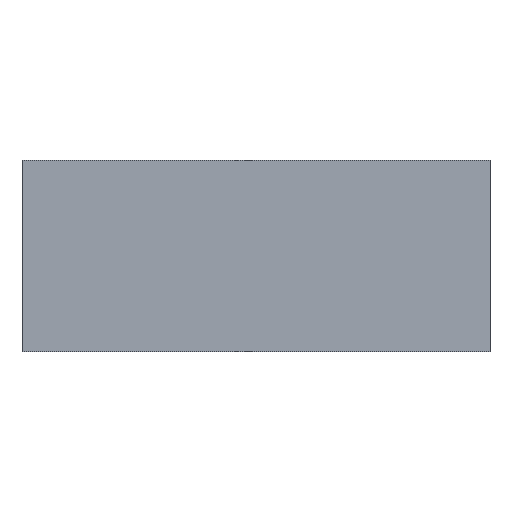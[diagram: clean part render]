
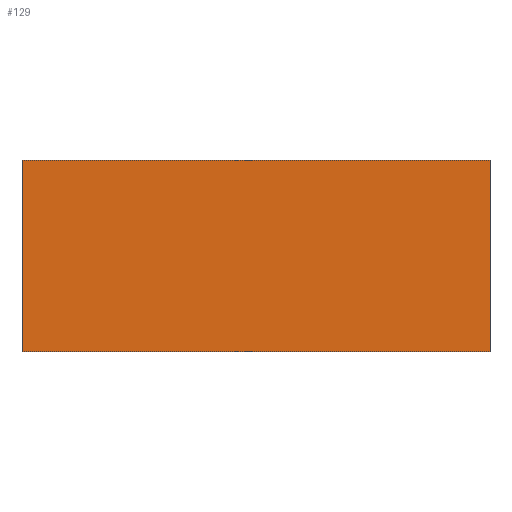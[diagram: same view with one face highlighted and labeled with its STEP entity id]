
A CAD part, top view. The second image highlights one B-rep face of the part: STEP entity #129.
In plain terms, the highlighted planar face has unit normal (0, 0, 1).
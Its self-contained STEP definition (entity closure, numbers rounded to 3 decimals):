
#50 = DIRECTION ( 'NONE',  ( -1., 0., 0. ) ) ;
#52 = CARTESIAN_POINT ( 'NONE',  ( 100., -1094.907, 1969.535 ) ) ;
#53 = LINE ( 'NONE', #52, #55 ) ;
#55 = VECTOR ( 'NONE', #50, 1000. ) ;
#121 = CARTESIAN_POINT ( 'NONE',  ( 0., -1094.907, 1969.535 ) ) ;
#126 = ORIENTED_EDGE ( 'NONE', *, *, #138, .F. ) ;
#127 = ORIENTED_EDGE ( 'NONE', *, *, #134, .T. ) ;
#129 = ADVANCED_FACE ( 'NONE', ( #281 ), #234, .F. ) ;
#132 = ORIENTED_EDGE ( 'NONE', *, *, #133, .F. ) ;
#133 = EDGE_CURVE ( 'NONE', #283, #140, #276, .T. ) ;
#134 = EDGE_CURVE ( 'NONE', #350, #140, #273, .T. ) ;
#136 = EDGE_LOOP ( 'NONE', ( #127, #132, #126, #320 ) ) ;
#138 = EDGE_CURVE ( 'NONE', #253, #283, #368, .T. ) ;
#140 = VERTEX_POINT ( 'NONE', #357 ) ;
#231 = CARTESIAN_POINT ( 'NONE',  ( 100., -1135.907, 1969.535 ) ) ;
#233 = CARTESIAN_POINT ( 'NONE',  ( 100., -1094.907, 1969.535 ) ) ;
#234 = PLANE ( 'NONE',  #280 ) ;
#253 = VERTEX_POINT ( 'NONE', #482 ) ;
#271 = VECTOR ( 'NONE', #410, 1000. ) ;
#272 = CARTESIAN_POINT ( 'NONE',  ( 0., -1094.907, 1969.535 ) ) ;
#273 = LINE ( 'NONE', #272, #271 ) ;
#274 = DIRECTION ( 'NONE',  ( -1., 0., 0. ) ) ;
#275 = VECTOR ( 'NONE', #274, 1000. ) ;
#276 = LINE ( 'NONE', #231, #275 ) ;
#278 = DIRECTION ( 'NONE',  ( -1., 0., 0. ) ) ;
#279 = DIRECTION ( 'NONE',  ( 0., 0., -1. ) ) ;
#280 = AXIS2_PLACEMENT_3D ( 'NONE', #233, #279, #278 ) ;
#281 = FACE_OUTER_BOUND ( 'NONE', #136, .T. ) ;
#283 = VERTEX_POINT ( 'NONE', #438 ) ;
#320 = ORIENTED_EDGE ( 'NONE', *, *, #353, .T. ) ;
#350 = VERTEX_POINT ( 'NONE', #121 ) ;
#353 = EDGE_CURVE ( 'NONE', #253, #350, #53, .T. ) ;
#357 = CARTESIAN_POINT ( 'NONE',  ( 0., -1135.907, 1969.535 ) ) ;
#366 = DIRECTION ( 'NONE',  ( 0., -1., 0. ) ) ;
#367 = VECTOR ( 'NONE', #366, 1000. ) ;
#368 = LINE ( 'NONE', #515, #367 ) ;
#410 = DIRECTION ( 'NONE',  ( 0., -1., 0. ) ) ;
#438 = CARTESIAN_POINT ( 'NONE',  ( 100., -1135.907, 1969.535 ) ) ;
#482 = CARTESIAN_POINT ( 'NONE',  ( 100., -1094.907, 1969.535 ) ) ;
#515 = CARTESIAN_POINT ( 'NONE',  ( 100., -1094.907, 1969.535 ) ) ;
